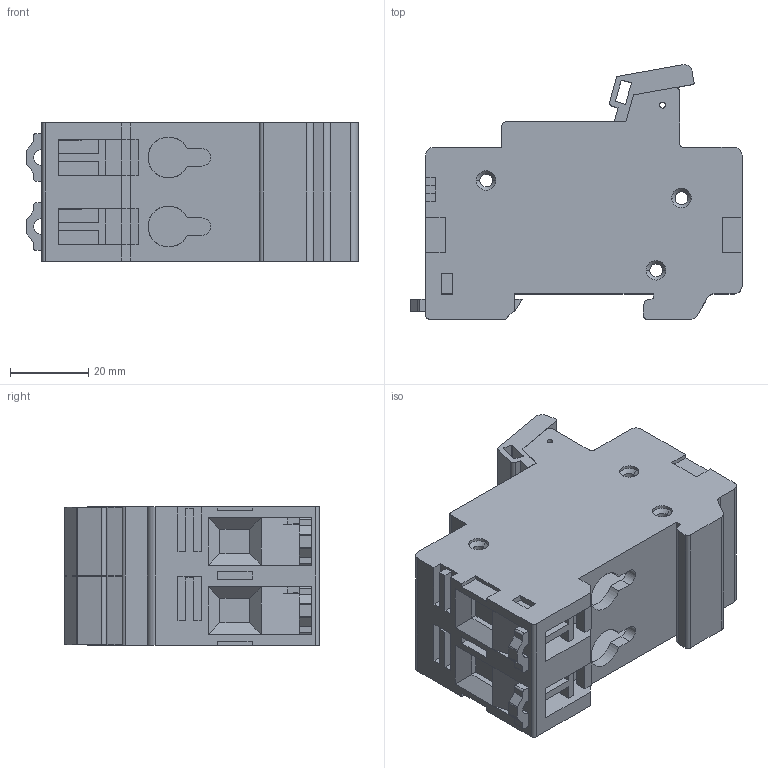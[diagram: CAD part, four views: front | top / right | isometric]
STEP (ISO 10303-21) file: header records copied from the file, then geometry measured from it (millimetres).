
FILE_DESCRIPTION((''),'2;1');
FILE_NAME('ASM0001_ASM','2016-07-07T',('Administrator'),(''),'PRO/ENGINEER BY PARAMETRIC TECHNOLOGY CORPORATION, 2012360','PRO/ENGINEER BY PARAMETRIC TECHNOLOGY CORPORATION, 2012360','');
FILE_SCHEMA(('CONFIG_CONTROL_DESIGN'));
Length unit declared in the file: inch
Products named in the file (1): ASM0001_ASM
Bounding box: 85 x 65.17 x 35.4 mm (x, y, z)
Volume: 121370.5 mm3; surface area: 28946.1 mm2
Topology: 1 solids, 11 shells, 565 faces, 1526 edges, 1001 vertices
Faces by surface type: plane 400, cylinder 145, cone 12, torus 8
Entity records: 17847 total; most frequent: CARTESIAN_POINT 3244, ORIENTED_EDGE 3052, DIRECTION 2995, EDGE_CURVE 1526, VECTOR 1131, LINE 1131, VERTEX_POINT 1001, AXIS2_PLACEMENT_3D 932
